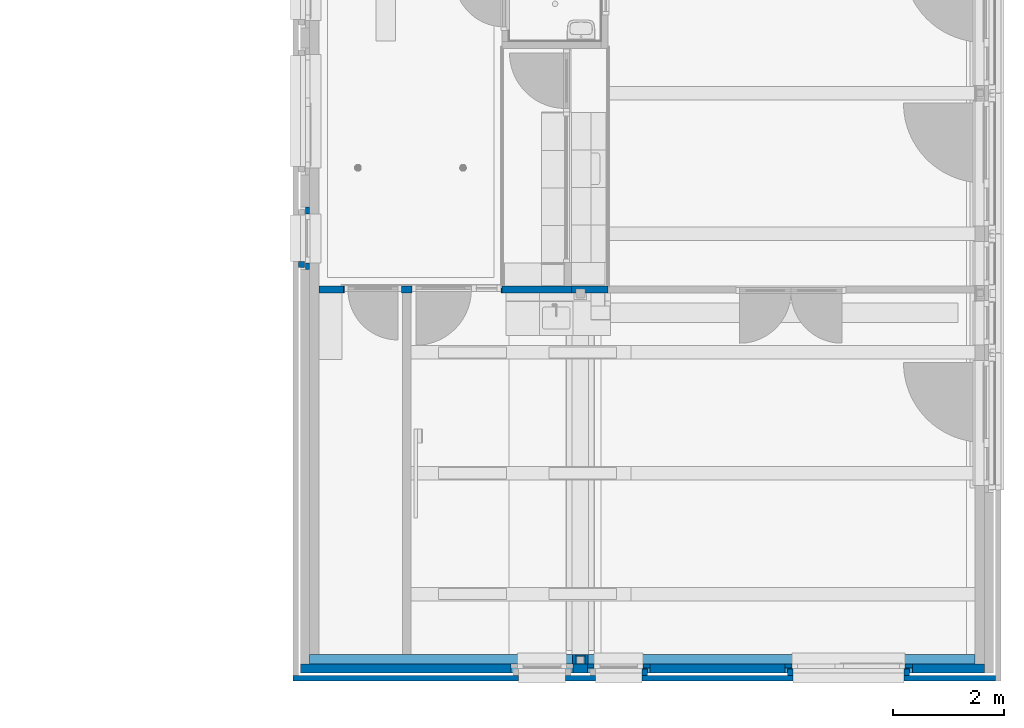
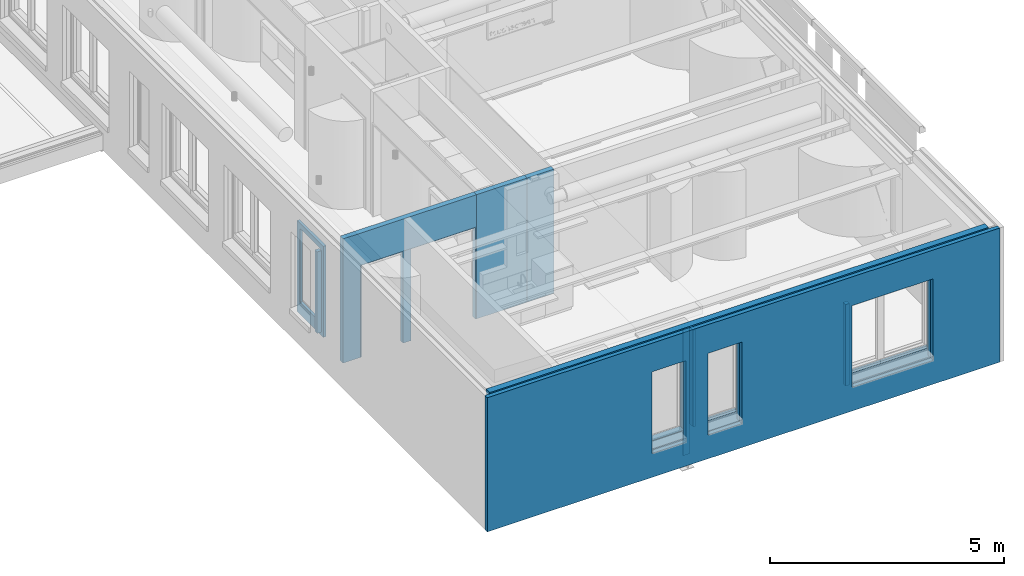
# One storey, part 33 of 128: 17 walls, 25 openings.
"""IFC2X3 building model written with IfcOpenShell, lengths in millimetres."""

from ifc_helpers import new_model, entity, si_unit, converted_unit, derived_unit, direction, frame, frame_2d, origin, place, context, subcontext, project, spatial, polyline, rectangle, extrude, clip, bounded_halfspace, material, layer, layer_set, layer_usage, type_object, element, save


model = new_model("IFC2X3")

# Units and contexts
model_context = context("Model", 3, precision=0.01, world=origin(), true_north=direction((6.123031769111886e-17, 1.0)))
body_context = subcontext(model_context, "Body", "Model", "MODEL_VIEW")
ifc_project = project(units=[si_unit("LENGTHUNIT", "METRE", prefix="MILLI"), si_unit("AREAUNIT", "SQUARE_METRE"), si_unit("VOLUMEUNIT", "CUBIC_METRE"), converted_unit("PLANEANGLEUNIT", "DEGREE", entity("IfcRatioMeasure", 0.017453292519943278), si_unit("PLANEANGLEUNIT", "RADIAN"), dimensions=[0, 0, 0, 0, 0, 0, 0]), si_unit("MASSUNIT", "GRAM", prefix="KILO"), derived_unit("MASSDENSITYUNIT", [(si_unit("MASSUNIT", "GRAM", prefix="KILO"), 1), (si_unit("LENGTHUNIT", "METRE"), -3)]), derived_unit("IONCONCENTRATIONUNIT", [(si_unit("MASSUNIT", "GRAM", prefix="KILO"), 1), (si_unit("LENGTHUNIT", "METRE"), -3)]), derived_unit("MOMENTOFINERTIAUNIT", [(si_unit("LENGTHUNIT", "METRE"), 4)]), si_unit("TIMEUNIT", "SECOND"), si_unit("FREQUENCYUNIT", "HERTZ"), si_unit("THERMODYNAMICTEMPERATUREUNIT", "DEGREE_CELSIUS"), derived_unit("THERMALTRANSMITTANCEUNIT", [(si_unit("MASSUNIT", "GRAM", prefix="KILO"), 1), (si_unit("THERMODYNAMICTEMPERATUREUNIT", "KELVIN"), -1), (si_unit("TIMEUNIT", "SECOND"), -3)]), derived_unit("THERMALCONDUCTANCEUNIT", [(si_unit("MASSUNIT", "GRAM", prefix="KILO"), 1), (si_unit("THERMODYNAMICTEMPERATUREUNIT", "KELVIN"), -1), (si_unit("TIMEUNIT", "SECOND"), -3), (si_unit("LENGTHUNIT", "METRE"), 1)]), derived_unit("VOLUMETRICFLOWRATEUNIT", [(si_unit("LENGTHUNIT", "METRE"), 3), (si_unit("TIMEUNIT", "SECOND"), -1)]), derived_unit("MASSFLOWRATEUNIT", [(si_unit("MASSUNIT", "GRAM", prefix="KILO"), 1), (si_unit("TIMEUNIT", "SECOND"), -1)]), derived_unit("ROTATIONALFREQUENCYUNIT", [(si_unit("TIMEUNIT", "SECOND"), -1)]), si_unit("ELECTRICCURRENTUNIT", "AMPERE"), si_unit("ELECTRICVOLTAGEUNIT", "VOLT"), si_unit("POWERUNIT", "WATT"), si_unit("FORCEUNIT", "NEWTON", prefix="KILO"), si_unit("ILLUMINANCEUNIT", "LUX"), si_unit("LUMINOUSFLUXUNIT", "LUMEN"), si_unit("LUMINOUSINTENSITYUNIT", "CANDELA"), derived_unit("USERDEFINED", [(si_unit("MASSUNIT", "GRAM", prefix="KILO"), -1), (si_unit("LENGTHUNIT", "METRE"), -2), (si_unit("TIMEUNIT", "SECOND"), 3), (si_unit("LUMINOUSFLUXUNIT", "LUMEN"), 1)]), derived_unit("USERDEFINED", [(si_unit("MASSUNIT", "GRAM", prefix="KILO"), 1), (si_unit("TIMEUNIT", "SECOND"), -3), (si_unit("LENGTHUNIT", "METRE"), 3), (si_unit("ELECTRICCURRENTUNIT", "AMPERE"), -2)]), derived_unit("SOUNDPOWERUNIT", [(si_unit("MASSUNIT", "GRAM", prefix="KILO"), 1), (si_unit("TIMEUNIT", "SECOND"), -3), (si_unit("LENGTHUNIT", "METRE"), 2)]), derived_unit("SOUNDPRESSUREUNIT", [(si_unit("MASSUNIT", "GRAM", prefix="KILO"), 1), (si_unit("LENGTHUNIT", "METRE"), -1), (si_unit("TIMEUNIT", "SECOND"), -2)]), derived_unit("LINEARVELOCITYUNIT", [(si_unit("LENGTHUNIT", "METRE"), 1), (si_unit("TIMEUNIT", "SECOND"), -1)]), si_unit("PRESSUREUNIT", "PASCAL"), derived_unit("USERDEFINED", [(si_unit("MASSUNIT", "GRAM", prefix="KILO"), 1), (si_unit("LENGTHUNIT", "METRE"), -2), (si_unit("TIMEUNIT", "SECOND"), -2)]), derived_unit("LINEARFORCEUNIT", [(si_unit("MASSUNIT", "GRAM", prefix="KILO"), 1), (si_unit("TIMEUNIT", "SECOND"), -2)]), derived_unit("PLANARFORCEUNIT", [(si_unit("MASSUNIT", "GRAM", prefix="KILO"), 1), (si_unit("LENGTHUNIT", "METRE"), -1), (si_unit("TIMEUNIT", "SECOND"), -2)]), derived_unit("SPECIFICHEATCAPACITYUNIT", [(si_unit("THERMODYNAMICTEMPERATUREUNIT", "KELVIN"), -1), (si_unit("LENGTHUNIT", "METRE"), 2), (si_unit("TIMEUNIT", "SECOND"), -2)]), derived_unit("HEATINGVALUEUNIT", [(si_unit("LENGTHUNIT", "METRE"), 2), (si_unit("TIMEUNIT", "SECOND"), -2)]), derived_unit("VAPORPERMEABILITYUNIT", [(si_unit("LENGTHUNIT", "METRE"), -1), (si_unit("TIMEUNIT", "SECOND"), 1)]), derived_unit("DYNAMICVISCOSITYUNIT", [(si_unit("MASSUNIT", "GRAM", prefix="KILO"), 1), (si_unit("TIMEUNIT", "SECOND"), -1), (si_unit("LENGTHUNIT", "METRE"), -1)]), derived_unit("THERMALEXPANSIONCOEFFICIENTUNIT", [(si_unit("THERMODYNAMICTEMPERATUREUNIT", "KELVIN"), -1)]), derived_unit("MODULUSOFELASTICITYUNIT", [(si_unit("MASSUNIT", "GRAM", prefix="KILO"), 1), (si_unit("LENGTHUNIT", "METRE"), -1), (si_unit("TIMEUNIT", "SECOND"), -2)]), derived_unit("ISOTHERMALMOISTURECAPACITYUNIT", [(si_unit("LENGTHUNIT", "METRE"), 3), (si_unit("MASSUNIT", "GRAM", prefix="KILO"), -1)]), derived_unit("MOISTUREDIFFUSIVITYUNIT", [(si_unit("TIMEUNIT", "SECOND"), -1), (si_unit("LENGTHUNIT", "METRE"), 2)])], contexts=[model_context])

# Site, building, storey
site_placement = place(None, frame((0.0, 300.0, 0.0)))
site = spatial("IfcSite", under=ifc_project, at=site_placement, Name="<Kadastrale nummers>", CompositionType="ELEMENT")
building_placement = place(site_placement, origin())
building = spatial("IfcBuilding", under=site, at=building_placement, CompositionType="ELEMENT")
storey_placement = place(building_placement, frame((0.0, 0.0, 3560.0000331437)))
storey = spatial("IfcBuildingStorey", under=building, at=storey_placement, Name="01 eerste verdieping", CompositionType="ELEMENT", Elevation=3560.0000331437)

# Wall, openings
ifc_material_1 = material(Name="ISR_Metselwerk")
ifc_layer_1 = layer(ifc_material_1, 100.0)
ifc_layer_set_1 = layer_set([ifc_layer_1], Name="Basic Wall:21_DAT_metselwerk_100")
ifc_layer_usage_1 = layer_usage(ifc_layer_set_1, "AXIS2", "NEGATIVE", 50.0)
wall_type_1 = type_object("IfcWallType", Name="Basic Wall:21_DAT_metselwerk_100", PredefinedType="STANDARD", material=ifc_layer_set_1)
wall_1_placement = place(storey_placement, frame((48875.0, 2374.9986232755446, 90.00000187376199), z_axis=(0.0, 0.0, 1.0), x_axis=(-1.0, 0.0, 0.0)))
wall_1 = element("IfcWallStandardCase", 1, at=wall_1_placement, inside=storey, type_object=wall_type_1, material=ifc_layer_usage_1, Name="Basic Wall:21_DAT_metselwerk_100", ObjectType="Basic Wall:21_DAT_metselwerk_100", context=body_context, shape_type="SweptSolid", body=[
    extrude(rectangle(XDim=12649.999999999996, YDim=100.0, at=frame_2d((6324.999999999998, -1.7053025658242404e-13), x_axis=(-1.0, 0.0))), origin(), (0.0, 0.0, 1.0), 3500.0000000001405),
])
opening_1_placement = place(wall_1_placement, frame((48875.0, 2374.9986232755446, -90.0000018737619), z_axis=(0.0, 0.0, 1.0), x_axis=(-1.0, 0.0, 0.0)))
element("IfcOpeningElement", 2, at=opening_1_placement, cuts=wall_1, Name="Basic Wall:21_DAT_metselwerk_100", ObjectType="Opening", context=body_context, shape_type="SweptSolid", body=[
    extrude(rectangle(XDim=2124.999999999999, YDim=839.9999999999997, at=frame_2d((-3.410605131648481e-13, 0.0), x_axis=(1.0, 0.0))), frame((40710.0, 2424.998623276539, 1777.5000018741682), z_axis=(0.0, -1.0, 0.0), x_axis=(0.0, 0.0, -1.0)), (0.0, 0.0, 1.0), 100.00000000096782),
])
opening_2_placement = place(wall_1_placement, frame((48875.0, 2374.9986232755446, -90.0000018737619), z_axis=(0.0, 0.0, 1.0), x_axis=(-1.0, 0.0, 0.0)))
element("IfcOpeningElement", 3, at=opening_2_placement, cuts=wall_1, Name="Basic Wall:21_DAT_metselwerk_100", ObjectType="Opening", context=body_context, shape_type="SweptSolid", body=[
    extrude(rectangle(XDim=2124.999999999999, YDim=839.9999999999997, at=frame_2d((-3.410605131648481e-13, 0.0), x_axis=(1.0, 0.0))), frame((42090.0, 2424.9986232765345, 1777.5000018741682), z_axis=(0.0, -1.0, 0.0), x_axis=(0.0, 0.0, -1.0)), (0.0, 0.0, 1.0), 100.00000000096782),
])
opening_3_placement = place(wall_1_placement, frame((48875.0, 2374.9986232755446, -90.0000018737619), z_axis=(0.0, 0.0, 1.0), x_axis=(-1.0, 0.0, 0.0)))
element("IfcOpeningElement", 4, at=opening_3_placement, cuts=wall_1, Name="Basic Wall:21_DAT_metselwerk_100", ObjectType="Opening", context=body_context, shape_type="SweptSolid", body=[
    extrude(rectangle(XDim=2124.999999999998, YDim=1999.999999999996, at=frame_2d((5.684341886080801e-13, 0.0), x_axis=(1.0, 0.0))), frame((46225.0, 2424.9986232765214, 1777.500001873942), z_axis=(0.0, -1.0, 0.0), x_axis=(0.0, 0.0, -1.0)), (0.0, 0.0, 1.0), 100.00000000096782),
])

# Walls
wall_2_placement = place(storey_placement, frame((36325.0, 9820.0, 715.0000018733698)))
element("IfcWallStandardCase", 5, at=wall_2_placement, inside=storey, type_object=wall_type_1, material=ifc_layer_usage_1, Name="Basic Wall:21_DAT_metselwerk_100", ObjectType="Basic Wall:21_DAT_metselwerk_100", context=body_context, shape_type="SweptSolid", body=[
    extrude(rectangle(XDim=110.00000000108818, YDim=99.99999999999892, at=frame_2d((55.00000000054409, 6.750155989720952e-14), x_axis=(-1.0, 0.0))), origin(), (0.0, 0.0, 1.0), 2125.0000000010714),
])
wall_3_placement = place(storey_placement, frame((42560.0, 2424.998623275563, 715.0000018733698), z_axis=(0.0, 0.0, 1.0), x_axis=(0.0, 1.0, 0.0)))
element("IfcWallStandardCase", 6, at=wall_3_placement, inside=storey, type_object=wall_type_1, material=ifc_layer_usage_1, Name="Basic Wall:21_DAT_metselwerk_100", ObjectType="Basic Wall:21_DAT_metselwerk_100", context=body_context, shape_type="SweptSolid", body=[
    extrude(rectangle(XDim=110.00000000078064, YDim=99.9999999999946, at=frame_2d((55.00000000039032, -2.2453150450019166e-12), x_axis=(-1.0, 0.0))), origin(), (0.0, 0.0, 1.0), 2125.0000000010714),
])
wall_4_placement = place(storey_placement, frame((47275.0, 2424.9986232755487, 715.0000018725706), z_axis=(0.0, 0.0, 1.0), x_axis=(0.0, 1.0, 0.0)))
element("IfcWallStandardCase", 7, at=wall_4_placement, inside=storey, type_object=wall_type_1, material=ifc_layer_usage_1, Name="Basic Wall:21_DAT_metselwerk_100", ObjectType="Basic Wall:21_DAT_metselwerk_100", context=body_context, shape_type="SweptSolid", body=[
    extrude(rectangle(XDim=110.00137672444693, YDim=99.9999999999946, at=frame_2d((55.000688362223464, -2.8279600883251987e-12), x_axis=(-1.0, 0.0))), origin(), (0.0, 0.0, 1.0), 2125.0000000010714),
])
ifc_layer_usage_2 = layer_usage(ifc_layer_set_1, "AXIS2", "POSITIVE", -50.0)
wall_5_placement = place(storey_placement, frame((45175.0, 2424.9986232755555, 715.0000018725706), z_axis=(0.0, 0.0, 1.0), x_axis=(0.0, 1.0, 0.0)))
element("IfcWallStandardCase", 8, at=wall_5_placement, inside=storey, type_object=wall_type_1, material=ifc_layer_usage_2, Name="Basic Wall:21_DAT_metselwerk_100", ObjectType="Basic Wall:21_DAT_metselwerk_100", context=body_context, shape_type="SweptSolid", body=[
    extrude(rectangle(XDim=110.0013767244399, YDim=99.9999999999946, at=frame_2d((55.00068836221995, 3.0375701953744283e-12), x_axis=(-1.0, 0.0))), origin(), (0.0, 0.0, 1.0), 2125.0000000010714),
])

# Wall, opening
ifc_material_2 = material(Name="ISR_Gips")
ifc_layer_2 = layer(ifc_material_2, 1.0)
ifc_material_3 = material(Name="ISR_Binnenwand")
ifc_layer_3 = layer(ifc_material_3, 123.0)
ifc_layer_4 = layer(ifc_material_2, 1.0)
ifc_layer_set_2 = layer_set([ifc_layer_2, ifc_layer_3, ifc_layer_4], Name="Basic Wall:22_DAT_binnenwand_125")
ifc_layer_usage_3 = layer_usage(ifc_layer_set_2, "AXIS2", "NEGATIVE", 62.50000000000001)
wall_type_2 = type_object("IfcWallType", Name="Basic Wall:22_DAT_binnenwand_125", PredefinedType="STANDARD", material=ifc_layer_set_2)
wall_6_placement = place(storey_placement, frame((39990.0, 9372.498623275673, 90.00000187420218), z_axis=(0.0, 0.0, 1.0), x_axis=(-1.0, 0.0, 0.0)))
wall_6 = element("IfcWallStandardCase", 9, at=wall_6_placement, inside=storey, type_object=wall_type_2, material=ifc_layer_usage_3, Name="Basic Wall:22_DAT_binnenwand_125", ObjectType="Basic Wall:22_DAT_binnenwand_125", context=body_context, shape_type="SweptSolid", body=[
    extrude(rectangle(XDim=3289.999999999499, YDim=124.99999999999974, at=frame_2d((1644.9999999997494, 4.014566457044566e-13), x_axis=(-1.0, 0.0))), origin(), (0.0, 0.0, 1.0), 3239.9999999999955),
])
opening_4_placement = place(wall_6_placement, origin())
element("IfcOpeningElement", 10, at=opening_4_placement, cuts=wall_6, Name="Basic Wall:22_DAT_binnenwand_125", ObjectType="Opening", context=body_context, shape_type="SweptSolid", body=[
    extrude(rectangle(XDim=2399.999999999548, YDim=2866.499999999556, at=frame_2d((-2.2737367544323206e-13, 0.0), x_axis=(1.0, 0.0))), frame((1420.7499999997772, -214.89999999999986, 1200.0), z_axis=(0.0, 1.0, 0.0), x_axis=(0.0, 0.0, 1.0)), (0.0, 0.0, 1.0), 429.7999999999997),
])

# Wall
ifc_layer_5 = layer(ifc_material_3, 113.0)
ifc_material_4 = material(Name="ISR_HPL Kleur hout")
ifc_layer_6 = layer(ifc_material_4, 12.0)
ifc_layer_set_3 = layer_set([ifc_layer_5, ifc_layer_6], Name="Basic Wall:22_DAT_binnenwand_125 HPL")
ifc_layer_usage_4 = layer_usage(ifc_layer_set_3, "AXIS2", "NEGATIVE", 62.49999999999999)
wall_type_3 = type_object("IfcWallType", Name="Basic Wall:22_DAT_binnenwand_125 HPL", PredefinedType="STANDARD", material=ifc_layer_set_3)
wall_7_placement = place(storey_placement, frame((41240.0, 9372.498623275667, 90.00000187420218), z_axis=(0.0, 0.0, 1.0), x_axis=(-1.0, 0.0, 0.0)))
element("IfcWallStandardCase", 11, at=wall_7_placement, inside=storey, type_object=wall_type_3, material=ifc_layer_usage_4, Name="Basic Wall:22_DAT_binnenwand_125 HPL", ObjectType="Basic Wall:22_DAT_binnenwand_125 HPL", context=body_context, shape_type="SweptSolid", body=[
    extrude(rectangle(XDim=1250.000000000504, YDim=124.99999999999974, at=frame_2d((625.000000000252, 0.0), x_axis=(-1.0, 0.0))), origin(), (0.0, 0.0, 1.0), 3239.9999999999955),
])

# Wall, openings
wall_8_placement = place(storey_placement, frame((40002.49999999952, 9372.497246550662, 90.00000187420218), z_axis=(0.0, 0.0, 1.0), x_axis=(-1.0, 0.0, 0.0)))
wall_8 = element("IfcWallStandardCase", 12, at=wall_8_placement, inside=storey, type_object=wall_type_3, material=ifc_layer_usage_4, Name="Basic Wall:22_DAT_binnenwand_125 HPL", ObjectType="Basic Wall:22_DAT_binnenwand_125 HPL", context=body_context, shape_type="SweptSolid", body=[
    extrude(rectangle(XDim=2866.499999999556, YDim=124.99999999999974, at=frame_2d((1433.249999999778, 1.7763568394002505e-14), x_axis=(1.0, 0.0))), origin(), (0.0, 0.0, 1.0), 2399.9999999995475),
])
opening_5_placement = place(wall_8_placement, origin())
element("IfcOpeningElement", 13, at=opening_5_placement, cuts=wall_8, Name="Basic Wall:22_DAT_binnenwand_125 HPL", ObjectType="Opening", context=body_context, shape_type="SweptSolid", body=[
    extrude(rectangle(XDim=2390.0000000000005, YDim=1034.0000000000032, at=frame_2d((2.1600499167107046e-12, 0.0), x_axis=(0.0, 1.0))), frame((2334.49999999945, -214.89999999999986, 1195.0), z_axis=(0.0, 1.0, 0.0), x_axis=(-1.0, 0.0, 0.0)), (0.0, 0.0, 1.0), 429.7999999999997),
])
opening_6_placement = place(wall_8_placement, origin())
element("IfcOpeningElement", 14, at=opening_6_placement, cuts=wall_8, Name="Basic Wall:22_DAT_binnenwand_125 HPL", ObjectType="Opening", context=body_context, shape_type="SweptSolid", body=[
    extrude(rectangle(XDim=2390.0000000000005, YDim=1599.9999999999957, at=frame_2d((0.0, -2.1600499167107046e-12), x_axis=(1.0, 0.0))), frame((831.2500000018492, -214.90000000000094, 1195.0), z_axis=(0.0, 1.0, 0.0), x_axis=(0.0, 0.0, 1.0)), (0.0, 0.0, 1.0), 429.7999999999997),
])

# Walls
wall_9_placement = place(storey_placement, frame((41900.0, 9372.498623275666, 90.00000187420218), z_axis=(0.0, 0.0, 1.0), x_axis=(-1.0, 0.0, 0.0)))
element("IfcWallStandardCase", 15, at=wall_9_placement, inside=storey, type_object=wall_type_3, material=ifc_layer_usage_4, Name="Basic Wall:22_DAT_binnenwand_125 HPL", ObjectType="Basic Wall:22_DAT_binnenwand_125 HPL", context=body_context, shape_type="SweptSolid", body=[
    extrude(rectangle(XDim=659.9999999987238, YDim=124.99999999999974, at=frame_2d((329.9999999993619, 0.0), x_axis=(-1.0, 0.0))), origin(), (0.0, 0.0, 1.0), 3239.9999999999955),
])
ifc_layer_7 = layer(ifc_material_2, 1.0)
ifc_layer_8 = layer(ifc_material_3, 23.0)
ifc_layer_9 = layer(ifc_material_2, 1.0)
ifc_layer_set_4 = layer_set([ifc_layer_7, ifc_layer_8, ifc_layer_9], Name="Basic Wall:22_DAT_binnenwand_25")
ifc_layer_usage_5 = layer_usage(ifc_layer_set_4, "AXIS2", "POSITIVE", -12.499999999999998)
wall_type_4 = type_object("IfcWallType", Name="Basic Wall:22_DAT_binnenwand_25", PredefinedType="STANDARD", material=ifc_layer_set_4)
wall_10_placement = place(storey_placement, frame((41320.0, 2787.500000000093, 20.000001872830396)))
element("IfcWallStandardCase", 16, at=wall_10_placement, inside=storey, type_object=wall_type_4, material=ifc_layer_usage_5, Name="Basic Wall:22_DAT_binnenwand_25", ObjectType="Basic Wall:22_DAT_binnenwand_25", context=body_context, shape_type="SweptSolid", body=[
    extrude(rectangle(XDim=159.99999999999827, YDim=24.99999999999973, at=frame_2d((79.99999999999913, 1.5987211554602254e-14), x_axis=(-1.0, 0.0))), origin(), (0.0, 0.0, 1.0), 3310.0000290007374),
])

# Wall, openings
ifc_layer_10 = layer(ifc_material_2, 1.0)
ifc_material_5 = material(Name="ISR_Kalkzandsteen")
ifc_layer_11 = layer(ifc_material_5, 173.0)
ifc_layer_12 = layer(ifc_material_2, 1.0)
ifc_layer_set_5 = layer_set([ifc_layer_10, ifc_layer_11, ifc_layer_12], Name="Basic Wall:28_DAT_kalkzandsteen_175mm")
ifc_layer_usage_6 = layer_usage(ifc_layer_set_5, "AXIS2", "NEGATIVE", 87.49999999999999)
wall_type_5 = type_object("IfcWallType", Name="Basic Wall:28_DAT_kalkzandsteen_175mm", PredefinedType="STANDARD", material=ifc_layer_set_5)
wall_11_placement = place(storey_placement, frame((36525.0, 2712.4999999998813, -100.0000041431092)))
wall_11 = element("IfcWallStandardCase", 17, at=wall_11_placement, inside=storey, type_object=wall_type_5, material=ifc_layer_usage_6, Name="Basic Wall:28_DAT_kalkzandsteen_175mm", ObjectType="Basic Wall:28_DAT_kalkzandsteen_175mm", context=body_context, shape_type="Clipping", body=[
    clip(clip(clip(clip(extrude(rectangle(XDim=11975.000000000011, YDim=175.00000000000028, at=frame_2d((5987.5000000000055, 0.0), x_axis=(-1.0, 0.0))), origin(), (0.0, 0.0, 1.0), 3430.000006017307), bounded_halfspace(frame((4735.0, 87.50000000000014, 900.0000060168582), z_axis=(0.0, 0.0, -1.0), x_axis=(0.0, -1.0, 0.0)), True, frame((4735.0, 87.50000000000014, 900.0000060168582), z_axis=(0.0, 0.0, -1.0), x_axis=(0.0, -1.0, 0.0)), polyline([(0.0, 0.0), (0.0, -60.0), (175.0, -60.0), (175.0, 0.0), (0.0, 0.0)]))), bounded_halfspace(frame((4735.0, -87.4999999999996, 900.0000060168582), z_axis=(-1.0, 0.0, 0.0), x_axis=(0.0, -1.0, 0.0)), True, frame((4735.0, -87.4999999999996, 900.0000060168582), z_axis=(-1.0, 0.0, 0.0), x_axis=(0.0, -1.0, 0.0)), polyline([(0.0, 0.0), (0.0, 2530.0), (-175.0, 2530.0), (-175.0, 0.0), (0.0, 0.0)]))), bounded_halfspace(frame((5015.0, -87.4999999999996, 900.0000060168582), z_axis=(0.0, 0.0, -1.0), x_axis=(0.0, 1.0, 0.0)), True, frame((5015.0, -87.4999999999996, 900.0000060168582), z_axis=(0.0, 0.0, -1.0), x_axis=(0.0, 1.0, 0.0)), polyline([(0.0, 0.0), (0.0, -60.0), (175.0, -60.0), (175.0, 0.0), (0.0, 0.0)]))), bounded_halfspace(frame((5015.0, 87.50000000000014, 900.0000060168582), z_axis=(1.0, 0.0, 0.0), x_axis=(0.0, 1.0, 0.0)), True, frame((5015.0, 87.50000000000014, 900.0000060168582), z_axis=(1.0, 0.0, 0.0), x_axis=(0.0, 1.0, 0.0)), polyline([(0.0, 0.0), (0.0, 2530.0), (-175.0, 2530.0), (-175.0, 0.0), (0.0, 0.0)]))),
])
opening_7_placement = place(wall_11_placement, origin())
element("IfcOpeningElement", 18, at=opening_7_placement, cuts=wall_11, Name="Basic Wall:28_DAT_kalkzandsteen_175mm", ObjectType="Opening", context=body_context, shape_type="SweptSolid", body=[
    extrude(rectangle(XDim=1929.9999999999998, YDim=880.0000000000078, at=frame_2d((5.684341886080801e-13, 0.0), x_axis=(1.0, 0.0))), frame((5565.0, -239.8999999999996, 1965.0000060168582), z_axis=(0.0, 1.0, 0.0), x_axis=(0.0, 0.0, 1.0)), (0.0, 0.0, 1.0), 479.7999999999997),
])
opening_8_placement = place(wall_11_placement, origin())
element("IfcOpeningElement", 19, at=opening_8_placement, cuts=wall_11, Name="Basic Wall:28_DAT_kalkzandsteen_175mm", ObjectType="Opening", context=body_context, shape_type="SweptSolid", body=[
    extrude(rectangle(XDim=1929.9999999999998, YDim=880.0000000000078, at=frame_2d((5.684341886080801e-13, 0.0), x_axis=(1.0, 0.0))), frame((4185.0, -239.90000000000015, 1965.0000060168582), z_axis=(0.0, 1.0, 0.0), x_axis=(0.0, 0.0, 1.0)), (0.0, 0.0, 1.0), 479.7999999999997),
])
opening_9_placement = place(wall_11_placement, origin())
element("IfcOpeningElement", 20, at=opening_9_placement, cuts=wall_11, Name="Basic Wall:28_DAT_kalkzandsteen_175mm", ObjectType="Opening", context=body_context, shape_type="SweptSolid", body=[
    extrude(rectangle(XDim=1930.000000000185, YDim=2039.9999999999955, at=frame_2d((0.0, -4.320099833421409e-12), x_axis=(1.0, 0.0))), frame((9700.0, -239.8999999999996, 1965.0000060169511), z_axis=(0.0, 1.0, 0.0), x_axis=(0.0, 0.0, 1.0)), (0.0, 0.0, 1.0), 479.7999999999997),
])
opening_10_placement = place(wall_11_placement, origin())
element("IfcOpeningElement", 21, at=opening_10_placement, cuts=wall_11, Name="Basic Wall:28_DAT_kalkzandsteen_175mm", ObjectType="Opening", context=body_context, shape_type="SweptSolid", body=[
    extrude(rectangle(XDim=3310.0000290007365, YDim=159.99999999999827, at=frame_2d((5.684341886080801e-13, 0.0), x_axis=(1.0, 0.0))), frame((4875.0, -239.8999999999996, 1775.000020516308), z_axis=(0.0, 1.0, 0.0), x_axis=(0.0, 0.0, 1.0)), (0.0, 0.0, 1.0), 479.7999999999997),
])

ifc_material_6 = material(Name="ISR_Isolatie")
ifc_layer_13 = layer(ifc_material_6, 160.0)
ifc_layer_set_6 = layer_set([ifc_layer_13], Name="Basic Wall:21_DAT_isolatie minerale wol_160")
ifc_layer_usage_7 = layer_usage(ifc_layer_set_6, "AXIS2", "NEGATIVE", 80.0)
wall_type_6 = type_object("IfcWallType", Name="Basic Wall:21_DAT_isolatie minerale wol_160", PredefinedType="STANDARD", material=ifc_layer_set_6)
wall_12_placement = place(storey_placement, frame((48675.0, 2545.0, 90.00000187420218), z_axis=(0.0, 0.0, 1.0), x_axis=(-1.0, 0.0, 0.0)))
wall_12 = element("IfcWallStandardCase", 22, at=wall_12_placement, inside=storey, type_object=wall_type_6, material=ifc_layer_usage_7, Name="Basic Wall:21_DAT_isolatie minerale wol_160", ObjectType="Basic Wall:21_DAT_isolatie minerale wol_160", context=body_context, shape_type="SweptSolid", body=[
    extrude(rectangle(XDim=12310.0, YDim=160.00000000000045, at=frame_2d((6155.0, 6.394884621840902e-14), x_axis=(-1.0, 0.0))), origin(), (0.0, 0.0, 1.0), 3499.9999999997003),
])
opening_11_placement = place(wall_12_placement, origin())
element("IfcOpeningElement", 23, at=opening_11_placement, cuts=wall_12, Name="Basic Wall:21_DAT_isolatie minerale wol_160", ObjectType="Opening", context=body_context, shape_type="SweptSolid", body=[
    extrude(rectangle(XDim=2312.5000000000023, YDim=2290.0000000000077, at=frame_2d((4.320099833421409e-12, 2.2737367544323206e-13), x_axis=(0.0, 1.0))), frame((2445.0, -232.3999999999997, 1718.7499999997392), z_axis=(0.0, 1.0, 0.0), x_axis=(-1.0, 0.0, 0.0)), (0.0, 0.0, 1.0), 464.79999999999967),
])
opening_12_placement = place(wall_12_placement, origin())
element("IfcOpeningElement", 24, at=opening_12_placement, cuts=wall_12, Name="Basic Wall:21_DAT_isolatie minerale wol_160", ObjectType="Opening", context=body_context, shape_type="SweptSolid", body=[
    extrude(rectangle(XDim=2375.000035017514, YDim=1119.9999999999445, at=frame_2d((4.376943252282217e-12, 0.0), x_axis=(0.0, 1.0))), frame((6585.0, -232.39999999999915, 1687.4999824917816), z_axis=(0.0, 1.0, 0.0), x_axis=(-1.0, 0.0, 0.0)), (0.0, 0.0, 1.0), 464.79999999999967),
])
opening_13_placement = place(wall_12_placement, origin())
element("IfcOpeningElement", 25, at=opening_13_placement, cuts=wall_12, Name="Basic Wall:21_DAT_isolatie minerale wol_160", ObjectType="Opening", context=body_context, shape_type="SweptSolid", body=[
    extrude(rectangle(XDim=2375.000035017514, YDim=1119.9999999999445, at=frame_2d((4.376943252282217e-12, 0.0), x_axis=(0.0, 1.0))), frame((7965.0, -232.39999999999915, 1687.4999824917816), z_axis=(0.0, 1.0, 0.0), x_axis=(-1.0, 0.0, 0.0)), (0.0, 0.0, 1.0), 464.7999999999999),
])
opening_14_placement = place(wall_12_placement, origin())
element("IfcOpeningElement", 26, at=opening_14_placement, cuts=wall_12, Name="Basic Wall:21_DAT_isolatie minerale wol_160", ObjectType="Recess", context=body_context, shape_type="SweptSolid", body=[
    extrude(rectangle(XDim=2124.999999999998, YDim=1999.999999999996, at=frame_2d((5.684341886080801e-13, 0.0), x_axis=(1.0, 0.0))), frame((2450.0, 120.00137672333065, 1687.4999999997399), z_axis=(0.0, 1.0, 0.0), x_axis=(0.0, 0.0, -1.0)), (0.0, 0.0, 1.0), 100.00000000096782),
])
opening_15_placement = place(wall_12_placement, origin())
element("IfcOpeningElement", 27, at=opening_15_placement, cuts=wall_12, Name="Basic Wall:21_DAT_isolatie minerale wol_160", ObjectType="Recess", context=body_context, shape_type="SweptSolid", body=[
    extrude(rectangle(XDim=2124.999999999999, YDim=839.9999999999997, at=frame_2d((-3.410605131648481e-13, 0.0), x_axis=(1.0, 0.0))), frame((6585.0, 120.00137672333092, 1687.4999999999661), z_axis=(0.0, 1.0, 0.0), x_axis=(0.0, 0.0, -1.0)), (0.0, 0.0, 1.0), 100.00000000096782),
])
opening_16_placement = place(wall_12_placement, origin())
element("IfcOpeningElement", 28, at=opening_16_placement, cuts=wall_12, Name="Basic Wall:21_DAT_isolatie minerale wol_160", ObjectType="Recess", context=body_context, shape_type="SweptSolid", body=[
    extrude(rectangle(XDim=2124.999999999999, YDim=839.9999999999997, at=frame_2d((-3.410605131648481e-13, 0.0), x_axis=(1.0, 0.0))), frame((7965.0, 120.00137672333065, 1687.4999999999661), z_axis=(0.0, 1.0, 0.0), x_axis=(0.0, 0.0, -1.0)), (0.0, 0.0, 1.0), 100.00000000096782),
])

ifc_layer_14 = layer(ifc_material_2, 12.5)
ifc_layer_15 = layer(ifc_material_2, 12.5)
ifc_material_7 = material(Name="ISR_Dak_isolatie(198)")
ifc_layer_16 = layer(ifc_material_7, 140.0)
ifc_material_8 = material(Name="ISR_Multiplex")
ifc_layer_17 = layer(ifc_material_8, 10.0)
ifc_layer_set_7 = layer_set([ifc_layer_14, ifc_layer_15, ifc_layer_16, ifc_layer_17], Name="Basic Wall:21_DAT_Hekwerk 175")
ifc_layer_usage_8 = layer_usage(ifc_layer_set_7, "AXIS2", "NEGATIVE", 87.5)
wall_type_7 = type_object("IfcWallType", Name="Basic Wall:21_DAT_Hekwerk 175", PredefinedType="STANDARD", material=ifc_layer_set_7)
wall_13_placement = place(storey_placement, frame((41480.0, 2712.5000000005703, 800.0000018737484)))
wall_13 = element("IfcWallStandardCase", 29, at=wall_13_placement, inside=storey, type_object=wall_type_7, material=ifc_layer_usage_8, Name="Basic Wall:21_DAT_Hekwerk 175", ObjectType="Basic Wall:21_DAT_Hekwerk 175", context=body_context, shape_type="SweptSolid", body=[
    extrude(rectangle(XDim=60.00000000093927, YDim=175.00000000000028, at=frame_2d((30.000000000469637, 1.2789769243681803e-13), x_axis=(-1.0, 0.0))), origin(), (0.0, 0.0, 1.0), 2530.0000289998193),
])
opening_17_placement = place(wall_13_placement, origin())
element("IfcOpeningElement", 30, at=opening_17_placement, cuts=wall_13, Name="Basic Wall:21_DAT_Hekwerk 175", ObjectType="Opening", context=body_context, shape_type="SweptSolid", body=[
    extrude(rectangle(XDim=1929.9999999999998, YDim=880.0000000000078, at=frame_2d((5.684341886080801e-13, 0.0), x_axis=(1.0, 0.0))), frame((-770.0, -239.8999999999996, 1065.0), z_axis=(0.0, 1.0, 0.0), x_axis=(0.0, 0.0, 1.0)), (0.0, 0.0, 1.0), 479.7999999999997),
])
opening_18_placement = place(wall_13_placement, origin())
element("IfcOpeningElement", 31, at=opening_18_placement, cuts=wall_13, Name="Basic Wall:21_DAT_Hekwerk 175", ObjectType="Opening", context=body_context, shape_type="SweptSolid", body=[
    extrude(rectangle(XDim=1929.9999999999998, YDim=880.0000000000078, at=frame_2d((5.684341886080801e-13, 0.0), x_axis=(1.0, 0.0))), frame((610.0, -239.8999999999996, 1065.0), z_axis=(0.0, 1.0, 0.0), x_axis=(0.0, 0.0, 1.0)), (0.0, 0.0, 1.0), 479.7999999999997),
])
opening_19_placement = place(wall_13_placement, origin())
element("IfcOpeningElement", 32, at=opening_19_placement, cuts=wall_13, Name="Basic Wall:21_DAT_Hekwerk 175", ObjectType="Opening", context=body_context, shape_type="SweptSolid", body=[
    extrude(rectangle(XDim=1930.000000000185, YDim=2039.9999999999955, at=frame_2d((0.0, -4.320099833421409e-12), x_axis=(1.0, 0.0))), frame((4745.0, -239.8999999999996, 1065.0), z_axis=(0.0, 1.0, 0.0), x_axis=(0.0, 0.0, 1.0)), (0.0, 0.0, 1.0), 479.7999999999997),
])

ifc_layer_usage_9 = layer_usage(ifc_layer_set_7, "AXIS2", "POSITIVE", -87.5)
wall_14_placement = place(storey_placement, frame((41320.0, 2712.500000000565, 800.0000018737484), z_axis=(0.0, 0.0, 1.0), x_axis=(-1.0, 0.0, 0.0)))
wall_14 = element("IfcWallStandardCase", 33, at=wall_14_placement, inside=storey, type_object=wall_type_7, material=ifc_layer_usage_9, Name="Basic Wall:21_DAT_Hekwerk 175", ObjectType="Basic Wall:21_DAT_Hekwerk 175", context=body_context, shape_type="SweptSolid", body=[
    extrude(rectangle(XDim=59.99999999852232, YDim=175.00000000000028, at=frame_2d((29.99999999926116, -4.973799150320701e-14), x_axis=(-1.0, 0.0))), origin(), (0.0, 0.0, 1.0), 2530.0000289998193),
])
opening_20_placement = place(wall_14_placement, origin())
element("IfcOpeningElement", 34, at=opening_20_placement, cuts=wall_14, Name="Basic Wall:21_DAT_Hekwerk 175", ObjectType="Opening", context=body_context, shape_type="SweptSolid", body=[
    extrude(rectangle(XDim=1929.9999999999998, YDim=880.0000000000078, at=frame_2d((0.0, 5.684341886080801e-13), x_axis=(0.0, 1.0))), frame((610.0, -239.90000000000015, 1065.0), z_axis=(0.0, 1.0, 0.0), x_axis=(-1.0, 0.0, 0.0)), (0.0, 0.0, 1.0), 479.7999999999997),
])
opening_21_placement = place(wall_14_placement, origin())
element("IfcOpeningElement", 35, at=opening_21_placement, cuts=wall_14, Name="Basic Wall:21_DAT_Hekwerk 175", ObjectType="Opening", context=body_context, shape_type="SweptSolid", body=[
    extrude(rectangle(XDim=1929.9999999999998, YDim=880.0000000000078, at=frame_2d((0.0, 5.684341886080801e-13), x_axis=(0.0, 1.0))), frame((-770.0, -239.8999999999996, 1065.0), z_axis=(0.0, 1.0, 0.0), x_axis=(-1.0, 0.0, 0.0)), (0.0, 0.0, 1.0), 479.7999999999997),
])
opening_22_placement = place(wall_14_placement, origin())
element("IfcOpeningElement", 36, at=opening_22_placement, cuts=wall_14, Name="Basic Wall:21_DAT_Hekwerk 175", ObjectType="Opening", context=body_context, shape_type="SweptSolid", body=[
    extrude(rectangle(XDim=1930.000000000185, YDim=2039.9999999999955, at=frame_2d((-4.320099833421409e-12, 0.0), x_axis=(0.0, 1.0))), frame((-4905.0, -239.8999999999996, 1065.0), z_axis=(0.0, 1.0, 0.0), x_axis=(-1.0, 0.0, 0.0)), (0.0, 0.0, 1.0), 479.7999999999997),
])

# Wall, opening
ifc_layer_18 = layer(ifc_material_6, 70.0)
ifc_layer_set_8 = layer_set([ifc_layer_18], Name="Basic Wall:21_DAT_isolatie hard_74")
ifc_layer_usage_10 = layer_usage(ifc_layer_set_8, "AXIS2", "POSITIVE", -35.0)
wall_type_8 = type_object("IfcWallType", Name="Basic Wall:21_DAT_isolatie hard_74", PredefinedType="STANDARD", material=ifc_layer_set_8)
wall_15_placement = place(storey_placement, frame((36490.0, 10850.0, 589.9999668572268), z_axis=(0.0, 0.0, 1.0), x_axis=(0.0, -1.0, 0.0)))
wall_15 = element("IfcWallStandardCase", 37, at=wall_15_placement, inside=storey, type_object=wall_type_8, material=ifc_layer_usage_10, Name="Basic Wall:21_DAT_isolatie hard_74", ObjectType="Basic Wall:21_DAT_isolatie hard_74", context=body_context, shape_type="SweptSolid", body=[
    extrude(rectangle(XDim=1119.9999999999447, YDim=70.00000000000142, at=frame_2d((559.9999999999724, -1.2789769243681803e-13), x_axis=(-1.0, 0.0))), origin(), (0.0, 0.0, 1.0), 2375.000035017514),
])
opening_23_placement = place(wall_15_placement, origin())
element("IfcOpeningElement", 38, at=opening_23_placement, cuts=wall_15, Name="Basic Wall:21_DAT_isolatie hard_74", ObjectType="Opening", context=body_context, shape_type="SweptSolid", body=[
    extrude(rectangle(XDim=1929.9999999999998, YDim=879.9999999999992, at=frame_2d((5.684341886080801e-13, 0.0), x_axis=(1.0, 0.0))), frame((560.0, -187.3999999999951, 1275.0000350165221), z_axis=(0.0, 1.0, 0.0), x_axis=(0.0, 0.0, 1.0)), (0.0, 0.0, 1.0), 374.80000000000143),
])

wall_16_placement = place(storey_placement, frame((41530.0, 2589.9986232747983, 589.9999668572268)))
wall_16 = element("IfcWallStandardCase", 39, at=wall_16_placement, inside=storey, type_object=wall_type_8, material=ifc_layer_usage_10, Name="Basic Wall:21_DAT_isolatie hard_74", ObjectType="Basic Wall:21_DAT_isolatie hard_74", context=body_context, shape_type="SweptSolid", body=[
    extrude(rectangle(XDim=1119.9999999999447, YDim=70.00000000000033, at=frame_2d((559.9999999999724, 1.0658141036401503e-14), x_axis=(-1.0, 0.0))), origin(), (0.0, 0.0, 1.0), 2375.000035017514),
])
opening_24_placement = place(wall_16_placement, origin())
element("IfcOpeningElement", 40, at=opening_24_placement, cuts=wall_16, Name="Basic Wall:21_DAT_isolatie hard_74", ObjectType="Opening", context=body_context, shape_type="SweptSolid", body=[
    extrude(rectangle(XDim=1929.9999999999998, YDim=880.0000000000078, at=frame_2d((5.684341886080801e-13, 0.0), x_axis=(1.0, 0.0))), frame((560.0, -187.3999999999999, 1275.0000350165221), z_axis=(0.0, 1.0, 0.0), x_axis=(0.0, 0.0, 1.0)), (0.0, 0.0, 1.0), 374.7999999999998),
])

wall_17_placement = place(storey_placement, frame((45085.0, 2590.0, 652.50000187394)))
wall_17 = element("IfcWallStandardCase", 41, at=wall_17_placement, inside=storey, type_object=wall_type_8, material=ifc_layer_usage_10, Name="Basic Wall:21_DAT_isolatie hard_74", ObjectType="Basic Wall:21_DAT_isolatie hard_74", context=body_context, shape_type="SweptSolid", body=[
    extrude(rectangle(XDim=2290.0000000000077, YDim=70.00000000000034, at=frame_2d((1145.0000000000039, -8.526512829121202e-14), x_axis=(-1.0, 0.0))), origin(), (0.0, 0.0, 1.0), 2312.5000000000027),
])
opening_25_placement = place(wall_17_placement, origin())
element("IfcOpeningElement", 42, at=opening_25_placement, cuts=wall_17, Name="Basic Wall:21_DAT_isolatie hard_74", ObjectType="Opening", context=body_context, shape_type="SweptSolid", body=[
    extrude(rectangle(XDim=1930.000000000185, YDim=2039.9999999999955, at=frame_2d((0.0, -4.320099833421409e-12), x_axis=(1.0, 0.0))), frame((1140.0, -187.39999999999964, 1212.499999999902), z_axis=(0.0, 1.0, 0.0), x_axis=(0.0, 0.0, 1.0)), (0.0, 0.0, 1.0), 374.7999999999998),
])

save(model, "model.ifc")
